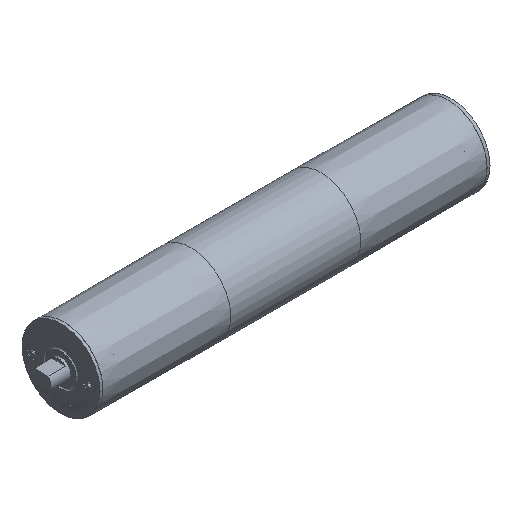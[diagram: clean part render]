
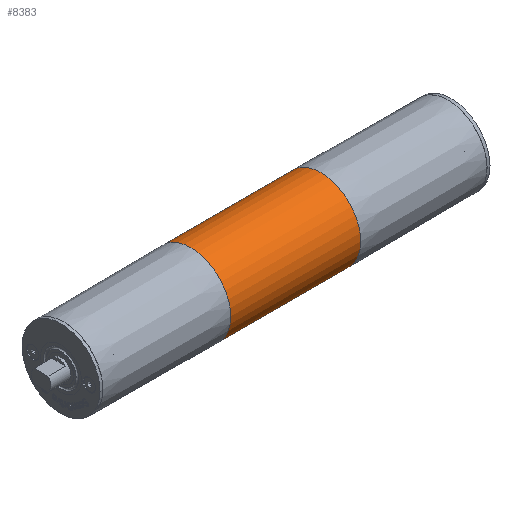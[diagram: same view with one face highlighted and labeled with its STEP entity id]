
A CAD part, isometric view. The second image highlights one B-rep face of the part: STEP entity #8383.
In plain terms, the highlighted cylindrical face has radius 40.75 mm (diameter 81.5 mm), a full revolution.
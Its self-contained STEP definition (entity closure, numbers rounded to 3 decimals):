
#16=CYLINDRICAL_SURFACE('',#8785,40.75);
#49=CIRCLE('',#8777,40.75);
#53=CIRCLE('',#8784,40.75);
#162=FACE_BOUND('',#1535,.T.);
#1027=FACE_OUTER_BOUND('',#1534,.T.);
#1534=EDGE_LOOP('',(#6588));
#1535=EDGE_LOOP('',(#6589));
#3792=VERTEX_POINT('',#12900);
#3796=VERTEX_POINT('',#12911);
#4811=EDGE_CURVE('',#3792,#3792,#49,.T.);
#4815=EDGE_CURVE('',#3796,#3796,#53,.T.);
#6588=ORIENTED_EDGE('',*,*,#4811,.T.);
#6589=ORIENTED_EDGE('',*,*,#4815,.F.);
#8383=ADVANCED_FACE('',(#1027,#162),#16,.T.);
#8777=AXIS2_PLACEMENT_3D('',#12901,#9604,#9605);
#8784=AXIS2_PLACEMENT_3D('',#12912,#9618,#9619);
#8785=AXIS2_PLACEMENT_3D('',#12913,#9620,#9621);
#9604=DIRECTION('center_axis',(1.,0.,0.));
#9605=DIRECTION('ref_axis',(0.,0.,-1.));
#9618=DIRECTION('center_axis',(1.,0.,0.));
#9619=DIRECTION('ref_axis',(0.,0.,-1.));
#9620=DIRECTION('center_axis',(1.,0.,0.));
#9621=DIRECTION('ref_axis',(0.,1.,0.));
#12900=CARTESIAN_POINT('',(-66.667,40.75,0.));
#12901=CARTESIAN_POINT('Origin',(-66.667,0.,
0.));
#12911=CARTESIAN_POINT('',(66.667,40.75,0.));
#12912=CARTESIAN_POINT('Origin',(66.667,0.,
0.));
#12913=CARTESIAN_POINT('Origin',(0.,0.,0.));
